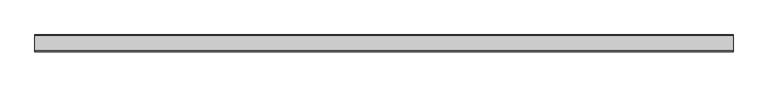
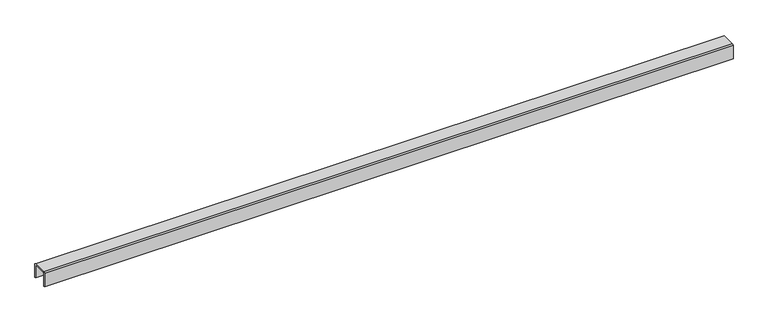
"""IFC4 building model written with IfcOpenShell, lengths in millimetres: proxy geometry, Beared-Hanger : BearedHanger."""

from ifc_helpers import new_model, si_unit, frame, origin, place, context, project, spatial, polyline, outline, extrude, source, transform, mapped, element, save


def mechanical_equipment_2878c70a(model_context):
    return source(origin(), model_context, "Body", "SweptSolid", [
        extrude(outline(polyline([(-17.8259277, -789.5), (17.1740723, -789.5), (19.6740723, -791.9996948), (19.6740723, -825.9154053), (16.7883301, -825.9154053), (16.7883301, -792.4998779), (-17.3962402, -792.4998779), (-17.3962402, -825.9154053), (-20.3259277, -825.9154053), (-20.3259277, -791.9996948), (-17.8259277, -789.5)])), frame((-825.5697632, 0.0, 0.0), z_axis=(1.0, 0.0, 0.0), x_axis=(0.0, 1.0, 0.0)), (0.0, 0.0, 1.0), 1651.1395264),
    ])


if __name__ == "__main__":
    model = new_model("IFC4")
    model_context = context("Model", 3, world=origin())
    ifc_project = project(units=[si_unit("LENGTHUNIT", "METRE", prefix="MILLI")], contexts=[model_context])
    site = spatial("IfcSite", under=ifc_project)
    building = spatial("IfcBuilding", under=site)
    placement = place(None, origin())
    mechanical_equipment_shape = mechanical_equipment_2878c70a(model_context)
    element("IfcBuildingElementProxy", 1, Name="Beared-Hanger : BearedHanger", ObjectType="Beared-Hanger : BearedHanger", at=placement, inside=building, context=model_context, shape_type="MappedRepresentation", body=[
        mapped(mechanical_equipment_shape, transform((0.0, 0.0, 0.0), x_axis=(1.0, 0.0, 0.0), y_axis=(0.0, 1.0, 0.0), z_axis=(0.0, 0.0, 1.0))),
    ])
    save(model, "model.ifc")
